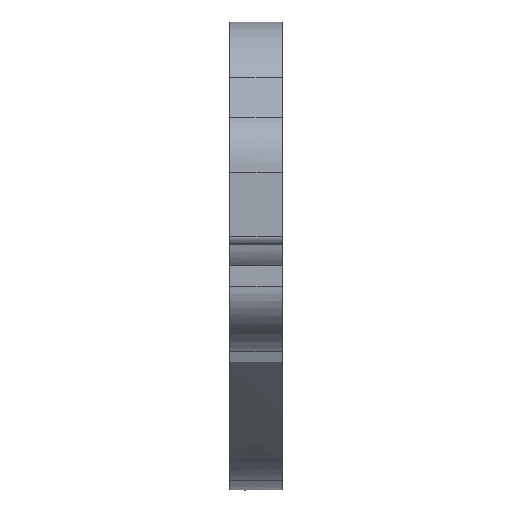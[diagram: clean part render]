
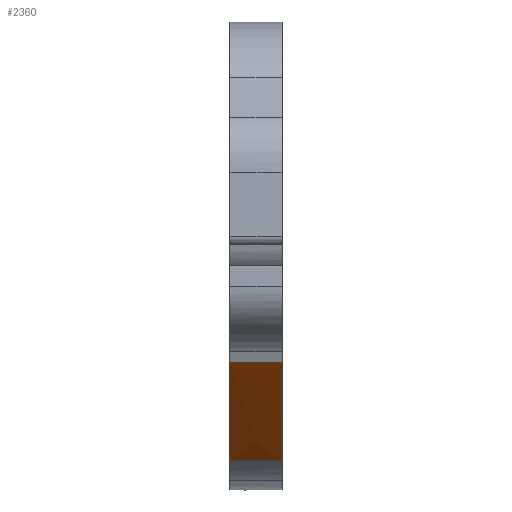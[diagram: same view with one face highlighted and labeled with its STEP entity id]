
A CAD part, left-side view. The second image highlights one B-rep face of the part: STEP entity #2360.
In plain terms, the highlighted free-form (B-spline) face has degree [3, 1] with [19, 2] control points.
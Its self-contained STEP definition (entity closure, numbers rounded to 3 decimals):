
#314 = VERTEX_POINT ( 'NONE', #9568 ) ;
#853 = FACE_OUTER_BOUND ( 'NONE', #13101, .T. ) ;
#1073 = CARTESIAN_POINT ( 'NONE',  ( 150.53, 7.776, 201.99 ) ) ;
#1301 = VERTEX_POINT ( 'NONE', #2493 ) ;
#1752 = CARTESIAN_POINT ( 'NONE',  ( 157.505, 1.896, 195.802 ) ) ;
#2007 = VERTEX_POINT ( 'NONE', #10737 ) ;
#2036 = CARTESIAN_POINT ( 'NONE',  ( 147.893, 1.896, 204.464 ) ) ;
#2082 = VERTEX_POINT ( 'NONE', #13523 ) ;
#2256 = CARTESIAN_POINT ( 'NONE',  ( 158.185, 1.896, 195.302 ) ) ;
#2315 = DIRECTION ( 'NONE',  ( 0., -1., 0. ) ) ;
#2325 = CARTESIAN_POINT ( 'NONE',  ( 155.16, 1.896, 197.784 ) ) ;
#2360 = ADVANCED_FACE ( 'NONE', ( #853 ), #5819, .F. ) ;
#2493 = CARTESIAN_POINT ( 'NONE',  ( 158.201, 7.776, 195.291 ) ) ;
#2866 = CARTESIAN_POINT ( 'NONE',  ( 157.64, 1.896, 195.696 ) ) ;
#2940 = CARTESIAN_POINT ( 'NONE',  ( 153.985, 1.896, 198.836 ) ) ;
#3158 = CARTESIAN_POINT ( 'NONE',  ( 157.645, 1.896, 195.691 ) ) ;
#3225 = CARTESIAN_POINT ( 'NONE',  ( 158.201, 7.776, 195.291 ) ) ;
#3326 = CARTESIAN_POINT ( 'NONE',  ( 157.916, 7.776, 195.488 ) ) ;
#3365 = CARTESIAN_POINT ( 'NONE',  ( 145.912, 1.896, 206.338 ) ) ;
#3428 = LINE ( 'NONE', #7931, #5882 ) ;
#3434 = CARTESIAN_POINT ( 'NONE',  ( 147.893, 7.776, 204.464 ) ) ;
#3439 = ORIENTED_EDGE ( 'NONE', *, *, #6740, .F. ) ;
#3457 = ORIENTED_EDGE ( 'NONE', *, *, #5319, .T. ) ;
#3769 = ORIENTED_EDGE ( 'NONE', *, *, #11421, .T. ) ;
#3906 = CARTESIAN_POINT ( 'NONE',  ( 158.201, 1.896, 195.291 ) ) ;
#4041 = CARTESIAN_POINT ( 'NONE',  ( 156.837, 1.896, 196.345 ) ) ;
#4218 = CARTESIAN_POINT ( 'NONE',  ( 156.838, 7.776, 196.344 ) ) ;
#4296 = CARTESIAN_POINT ( 'NONE',  ( 156.05, 7.776, 197.012 ) ) ;
#4398 = CARTESIAN_POINT ( 'NONE',  ( 155.16, 7.776, 197.784 ) ) ;
#4476 = CARTESIAN_POINT ( 'NONE',  ( 158.146, 7.776, 195.328 ) ) ;
#4480 = DIRECTION ( 'NONE',  ( 0., -1., 0. ) ) ;
#4812 = CARTESIAN_POINT ( 'NONE',  ( 147.914, 1.896, 204.445 ) ) ;
#5319 = EDGE_CURVE ( 'NONE', #1301, #2007, #13364, .T. ) ;
#5366 = CARTESIAN_POINT ( 'NONE',  ( 156.538, 1.896, 196.595 ) ) ;
#5505 = CARTESIAN_POINT ( 'NONE',  ( 158.17, 1.896, 195.312 ) ) ;
#5548 = CARTESIAN_POINT ( 'NONE',  ( 158.201, 1.896, 195.291 ) ) ;
#5640 = CARTESIAN_POINT ( 'NONE',  ( 158.17, 7.776, 195.312 ) ) ;
#5819 = B_SPLINE_SURFACE_WITH_KNOTS ( 'NONE', 3, 1, ( 
 ( #14046, #3906 ),
 ( #14112, #7370 ),
 ( #10790, #2256 ),
 ( #5640, #5505 ),
 ( #4476, #13360 ),
 ( #8836, #6680 ),
 ( #11218, #10031 ),
 ( #7936, #13290 ),
 ( #12172, #6749 ),
 ( #8900, #14544 ),
 ( #13574, #3158 ),
 ( #8979, #12457 ),
 ( #6601, #6824 ),
 ( #9881, #5366 ),
 ( #4398, #2325 ),
 ( #13506, #7649 ),
 ( #1073, #13429 ),
 ( #3434, #2036 ),
 ( #6523, #3365 ) ),
 .UNSPECIFIED., .F., .F., .F.,
 ( 4, 2, 1, 2, 2, 2, 2, 2, 2, 4 ),
 ( 2, 2 ),
 ( 0., 0.004, 0.008, 0.016, 0.031, 0.063, 0.125, 0.25, 0.5, 1. ),
 ( 0., 1. ),
 .UNSPECIFIED. ) ;
#5882 = VECTOR ( 'NONE', #2315, 1000. ) ;
#6242 = CARTESIAN_POINT ( 'NONE',  ( 157.102, 1.896, 196.125 ) ) ;
#6491 = CARTESIAN_POINT ( 'NONE',  ( 149.924, 7.776, 202.56 ) ) ;
#6523 = CARTESIAN_POINT ( 'NONE',  ( 145.912, 7.776, 206.338 ) ) ;
#6559 = CARTESIAN_POINT ( 'NONE',  ( 158.056, 7.776, 195.386 ) ) ;
#6601 = CARTESIAN_POINT ( 'NONE',  ( 156.95, 7.776, 196.248 ) ) ;
#6680 = CARTESIAN_POINT ( 'NONE',  ( 158.122, 1.896, 195.344 ) ) ;
#6740 = EDGE_CURVE ( 'NONE', #2082, #314, #3428, .T. ) ;
#6749 = CARTESIAN_POINT ( 'NONE',  ( 157.939, 1.896, 195.472 ) ) ;
#6824 = CARTESIAN_POINT ( 'NONE',  ( 156.95, 1.896, 196.248 ) ) ;
#6948 = CARTESIAN_POINT ( 'NONE',  ( 152.967, 1.896, 199.764 ) ) ;
#7370 = CARTESIAN_POINT ( 'NONE',  ( 158.194, 1.896, 195.296 ) ) ;
#7614 = CARTESIAN_POINT ( 'NONE',  ( 158.201, 7.776, 195.291 ) ) ;
#7649 = CARTESIAN_POINT ( 'NONE',  ( 154.057, 1.896, 198.774 ) ) ;
#7657 = EDGE_CURVE ( 'NONE', #2007, #314, #10396, .T. ) ;
#7931 = CARTESIAN_POINT ( 'NONE',  ( 145.912, 7.776, 206.338 ) ) ;
#7936 = CARTESIAN_POINT ( 'NONE',  ( 158.041, 7.776, 195.4 ) ) ;
#8466 = CARTESIAN_POINT ( 'NONE',  ( 158.055, 1.896, 195.386 ) ) ;
#8541 = CARTESIAN_POINT ( 'NONE',  ( 156.049, 1.896, 197.012 ) ) ;
#8722 = CARTESIAN_POINT ( 'NONE',  ( 155.532, 7.776, 197.465 ) ) ;
#8836 = CARTESIAN_POINT ( 'NONE',  ( 158.122, 7.776, 195.344 ) ) ;
#8900 = CARTESIAN_POINT ( 'NONE',  ( 157.868, 7.776, 195.524 ) ) ;
#8937 = CARTESIAN_POINT ( 'NONE',  ( 153.986, 7.776, 198.836 ) ) ;
#8979 = CARTESIAN_POINT ( 'NONE',  ( 157.482, 7.776, 195.819 ) ) ;
#9013 = CARTESIAN_POINT ( 'NONE',  ( 157.641, 7.776, 195.695 ) ) ;
#9568 = CARTESIAN_POINT ( 'NONE',  ( 145.912, 1.896, 206.338 ) ) ;
#9881 = CARTESIAN_POINT ( 'NONE',  ( 156.538, 7.776, 196.595 ) ) ;
#10031 = CARTESIAN_POINT ( 'NONE',  ( 158.074, 1.896, 195.377 ) ) ;
#10396 = B_SPLINE_CURVE_WITH_KNOTS ( 'NONE', 3,
 ( #5548, #8466, #12995, #2866, #1752, #6242, #4041, #8541, #13072, #2940, #6948, #13844, #4812, #11559 ),
 .UNSPECIFIED., .F., .F.,
 ( 4, 2, 2, 2, 2, 2, 4 ),
 ( 0., 0.001, 0.001, 0.002, 0.004, 0.008, 0.017 ),
 .UNSPECIFIED. ) ;
#10630 = VECTOR ( 'NONE', #4480, 1000. ) ;
#10737 = CARTESIAN_POINT ( 'NONE',  ( 158.201, 1.896, 195.291 ) ) ;
#10790 = CARTESIAN_POINT ( 'NONE',  ( 158.185, 7.776, 195.302 ) ) ;
#11035 = CARTESIAN_POINT ( 'NONE',  ( 157.102, 7.776, 196.124 ) ) ;
#11040 = B_SPLINE_CURVE_WITH_KNOTS ( 'NONE', 3,
 ( #12424, #14579, #6491, #14358, #8937, #8722, #4296, #4218, #11035, #11102, #9013, #3326, #6559, #7614 ),
 .UNSPECIFIED., .F., .F.,
 ( 4, 2, 2, 2, 2, 2, 4 ),
 ( 0., 0.008, 0.012, 0.014, 0.015, 0.016, 0.017 ),
 .UNSPECIFIED. ) ;
#11102 = CARTESIAN_POINT ( 'NONE',  ( 157.506, 7.776, 195.801 ) ) ;
#11218 = CARTESIAN_POINT ( 'NONE',  ( 158.074, 7.776, 195.377 ) ) ;
#11421 = EDGE_CURVE ( 'NONE', #2082, #1301, #11040, .T. ) ;
#11559 = CARTESIAN_POINT ( 'NONE',  ( 145.912, 1.896, 206.338 ) ) ;
#12172 = CARTESIAN_POINT ( 'NONE',  ( 157.939, 7.776, 195.472 ) ) ;
#12174 = ORIENTED_EDGE ( 'NONE', *, *, #7657, .T. ) ;
#12424 = CARTESIAN_POINT ( 'NONE',  ( 145.912, 7.776, 206.338 ) ) ;
#12457 = CARTESIAN_POINT ( 'NONE',  ( 157.482, 1.896, 195.819 ) ) ;
#12995 = CARTESIAN_POINT ( 'NONE',  ( 157.916, 1.896, 195.488 ) ) ;
#13072 = CARTESIAN_POINT ( 'NONE',  ( 155.531, 1.896, 197.466 ) ) ;
#13101 = EDGE_LOOP ( 'NONE', ( #12174, #3439, #3769, #3457 ) ) ;
#13290 = CARTESIAN_POINT ( 'NONE',  ( 158.041, 1.896, 195.4 ) ) ;
#13360 = CARTESIAN_POINT ( 'NONE',  ( 158.146, 1.896, 195.328 ) ) ;
#13364 = LINE ( 'NONE', #3225, #10630 ) ;
#13429 = CARTESIAN_POINT ( 'NONE',  ( 150.53, 1.896, 201.99 ) ) ;
#13506 = CARTESIAN_POINT ( 'NONE',  ( 154.057, 7.776, 198.774 ) ) ;
#13523 = CARTESIAN_POINT ( 'NONE',  ( 145.912, 7.776, 206.338 ) ) ;
#13574 = CARTESIAN_POINT ( 'NONE',  ( 157.645, 7.776, 195.691 ) ) ;
#13844 = CARTESIAN_POINT ( 'NONE',  ( 149.924, 1.896, 202.56 ) ) ;
#14046 = CARTESIAN_POINT ( 'NONE',  ( 158.201, 7.776, 195.291 ) ) ;
#14112 = CARTESIAN_POINT ( 'NONE',  ( 158.194, 7.776, 195.296 ) ) ;
#14358 = CARTESIAN_POINT ( 'NONE',  ( 152.967, 7.776, 199.764 ) ) ;
#14544 = CARTESIAN_POINT ( 'NONE',  ( 157.868, 1.896, 195.524 ) ) ;
#14579 = CARTESIAN_POINT ( 'NONE',  ( 147.914, 7.776, 204.444 ) ) ;
